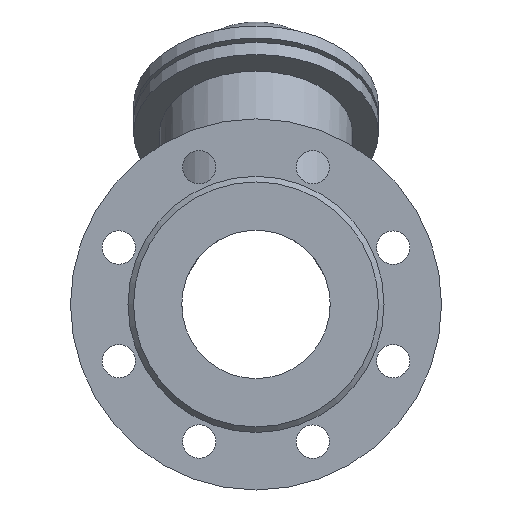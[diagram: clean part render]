
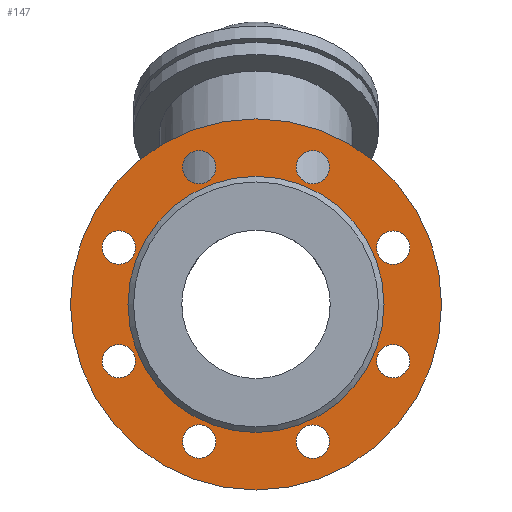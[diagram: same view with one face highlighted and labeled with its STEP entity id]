
A CAD part, front view. The second image highlights one B-rep face of the part: STEP entity #147.
In plain terms, the highlighted planar face has unit normal (0, -1, 0).
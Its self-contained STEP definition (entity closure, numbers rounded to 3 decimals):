
#147=ADVANCED_FACE('',(#553,#555,#557,#559,#561,#563,#565,#567,#569,#571),#573,.T.);
#553=FACE_BOUND('',#554,.T.);
#554=EDGE_LOOP('',(#946));
#555=FACE_BOUND('',#556,.T.);
#556=EDGE_LOOP('',(#947));
#557=FACE_BOUND('',#558,.T.);
#558=EDGE_LOOP('',(#948));
#559=FACE_BOUND('',#560,.T.);
#560=EDGE_LOOP('',(#949));
#561=FACE_BOUND('',#562,.T.);
#562=EDGE_LOOP('',(#950));
#563=FACE_BOUND('',#564,.T.);
#564=EDGE_LOOP('',(#951));
#565=FACE_BOUND('',#566,.T.);
#566=EDGE_LOOP('',(#952));
#567=FACE_BOUND('',#568,.T.);
#568=EDGE_LOOP('',(#953));
#569=FACE_BOUND('',#570,.T.);
#570=EDGE_LOOP('',(#954));
#571=FACE_BOUND('',#572,.T.);
#572=EDGE_LOOP('',(#955));
#573=PLANE('',#574);
#574=AXIS2_PLACEMENT_3D('',#575,#576,#577);
#575=CARTESIAN_POINT('',(0.,-127.,0.));
#576=DIRECTION('',(0.,-1.,0.));
#577=DIRECTION('',(0.,0.,1.));
#946=ORIENTED_EDGE('',*,*,#1072,.F.);
#947=ORIENTED_EDGE('',*,*,#1073,.T.);
#948=ORIENTED_EDGE('',*,*,#1074,.T.);
#949=ORIENTED_EDGE('',*,*,#1075,.T.);
#950=ORIENTED_EDGE('',*,*,#1076,.T.);
#951=ORIENTED_EDGE('',*,*,#1077,.T.);
#952=ORIENTED_EDGE('',*,*,#1078,.T.);
#953=ORIENTED_EDGE('',*,*,#1079,.T.);
#954=ORIENTED_EDGE('',*,*,#1062,.T.);
#955=ORIENTED_EDGE('',*,*,#1080,.T.);
#1062=EDGE_CURVE('',#1152,#1152,#1153,.T.);
#1072=EDGE_CURVE('',#1172,#1172,#1173,.T.);
#1073=EDGE_CURVE('',#1174,#1174,#1175,.F.);
#1074=EDGE_CURVE('',#1176,#1176,#1177,.F.);
#1075=EDGE_CURVE('',#1178,#1178,#1179,.F.);
#1076=EDGE_CURVE('',#1180,#1180,#1181,.F.);
#1077=EDGE_CURVE('',#1182,#1182,#1183,.F.);
#1078=EDGE_CURVE('',#1184,#1184,#1185,.F.);
#1079=EDGE_CURVE('',#1186,#1186,#1187,.F.);
#1080=EDGE_CURVE('',#1188,#1188,#1189,.F.);
#1152=VERTEX_POINT('',#1501);
#1153=CIRCLE('',#1502,69.);
#1172=VERTEX_POINT('',#1551);
#1173=CIRCLE('',#1552,100.);
#1174=VERTEX_POINT('',#1556);
#1175=CIRCLE('',#1557,9.);
#1176=VERTEX_POINT('',#1561);
#1177=CIRCLE('',#1562,9.);
#1178=VERTEX_POINT('',#1566);
#1179=CIRCLE('',#1567,9.);
#1180=VERTEX_POINT('',#1571);
#1181=CIRCLE('',#1572,9.);
#1182=VERTEX_POINT('',#1576);
#1183=CIRCLE('',#1577,9.);
#1184=VERTEX_POINT('',#1581);
#1185=CIRCLE('',#1582,9.);
#1186=VERTEX_POINT('',#1586);
#1187=CIRCLE('',#1587,9.);
#1188=VERTEX_POINT('',#1591);
#1189=CIRCLE('',#1592,9.);
#1501=CARTESIAN_POINT('',(0.,-127.,69.));
#1502=AXIS2_PLACEMENT_3D('',#1503,#1504,#1505);
#1503=CARTESIAN_POINT('',(0.,-127.,0.));
#1504=DIRECTION('',(0.,1.,0.));
#1505=DIRECTION('',(0.,0.,1.));
#1551=CARTESIAN_POINT('',(0.,-127.,100.));
#1552=AXIS2_PLACEMENT_3D('',#1553,#1554,#1555);
#1553=CARTESIAN_POINT('',(0.,-127.,0.));
#1554=DIRECTION('',(0.,1.,0.));
#1555=DIRECTION('',(0.,0.,1.));
#1556=CARTESIAN_POINT('',(36.979,-127.,67.546));
#1557=AXIS2_PLACEMENT_3D('',#1558,#1559,#1560);
#1558=CARTESIAN_POINT('',(30.615,-127.,73.91));
#1559=DIRECTION('',(0.,-1.,0.));
#1560=DIRECTION('',(0.707,0.,-0.707));
#1561=CARTESIAN_POINT('',(73.91,-127.,21.615));
#1562=AXIS2_PLACEMENT_3D('',#1563,#1564,#1565);
#1563=CARTESIAN_POINT('',(73.91,-127.,30.615));
#1564=DIRECTION('',(0.,-1.,0.));
#1565=DIRECTION('',(0.,0.,-1.));
#1566=CARTESIAN_POINT('',(67.546,-127.,-36.979));
#1567=AXIS2_PLACEMENT_3D('',#1568,#1569,#1570);
#1568=CARTESIAN_POINT('',(73.91,-127.,-30.615));
#1569=DIRECTION('',(0.,-1.,0.));
#1570=DIRECTION('',(-0.707,0.,-0.707));
#1571=CARTESIAN_POINT('',(21.615,-127.,-73.91));
#1572=AXIS2_PLACEMENT_3D('',#1573,#1574,#1575);
#1573=CARTESIAN_POINT('',(30.615,-127.,-73.91));
#1574=DIRECTION('',(0.,-1.,0.));
#1575=DIRECTION('',(-1.,0.,0.));
#1576=CARTESIAN_POINT('',(-36.979,-127.,-67.546));
#1577=AXIS2_PLACEMENT_3D('',#1578,#1579,#1580);
#1578=CARTESIAN_POINT('',(-30.615,-127.,-73.91));
#1579=DIRECTION('',(0.,-1.,0.));
#1580=DIRECTION('',(-0.707,0.,0.707));
#1581=CARTESIAN_POINT('',(-73.91,-127.,-21.615));
#1582=AXIS2_PLACEMENT_3D('',#1583,#1584,#1585);
#1583=CARTESIAN_POINT('',(-73.91,-127.,-30.615));
#1584=DIRECTION('',(0.,-1.,0.));
#1585=DIRECTION('',(0.,0.,1.));
#1586=CARTESIAN_POINT('',(-67.546,-127.,36.979));
#1587=AXIS2_PLACEMENT_3D('',#1588,#1589,#1590);
#1588=CARTESIAN_POINT('',(-73.91,-127.,30.615));
#1589=DIRECTION('',(0.,-1.,0.));
#1590=DIRECTION('',(0.707,0.,0.707));
#1591=CARTESIAN_POINT('',(-21.615,-127.,73.91));
#1592=AXIS2_PLACEMENT_3D('',#1593,#1594,#1595);
#1593=CARTESIAN_POINT('',(-30.615,-127.,73.91));
#1594=DIRECTION('',(0.,-1.,0.));
#1595=DIRECTION('',(1.,0.,0.));
